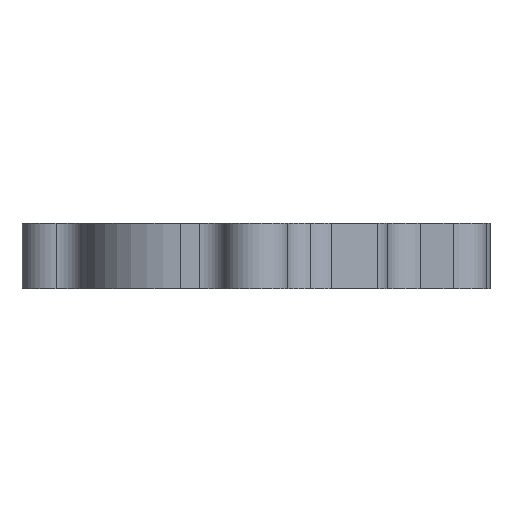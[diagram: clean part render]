
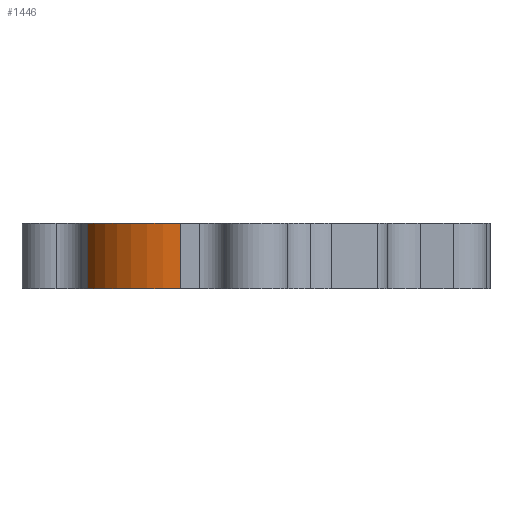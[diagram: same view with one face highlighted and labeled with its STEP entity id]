
A CAD part, left-side view. The second image highlights one B-rep face of the part: STEP entity #1446.
In plain terms, the highlighted cylindrical face has radius 30 mm (diameter 60 mm), a partial arc.
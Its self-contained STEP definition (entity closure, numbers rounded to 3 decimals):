
#504=CARTESIAN_POINT('',(-90.,22.975,-20.0));
#505=VERTEX_POINT('',#504);
#512=CARTESIAN_POINT('',(-70.261,51.166,-20.0));
#513=VERTEX_POINT('',#512);
#514=CARTESIAN_POINT('',(-60.,22.975,-20.0));
#515=DIRECTION('',(0.0,0.0,1.0));
#516=DIRECTION('',(1.0,0.0,0.0));
#517=AXIS2_PLACEMENT_3D('',#514,#515,#516);
#518=CIRCLE('',#517,30.0);
#519=EDGE_CURVE('',#513,#505,#518,.T.);
#826=CARTESIAN_POINT('',(-70.261,51.166,0.0));
#827=VERTEX_POINT('',#826);
#834=CARTESIAN_POINT('',(-90.,22.975,0.0));
#835=VERTEX_POINT('',#834);
#836=CARTESIAN_POINT('',(-60.,22.975,0.0));
#837=DIRECTION('',(0.0,0.0,1.0));
#838=DIRECTION('',(1.0,0.0,0.0));
#839=AXIS2_PLACEMENT_3D('',#836,#837,#838);
#840=CIRCLE('',#839,30.0);
#841=EDGE_CURVE('',#827,#835,#840,.T.);
#1419=CARTESIAN_POINT('',(-90.,22.975,-20.0));
#1420=DIRECTION('',(0.0,0.0,1.0));
#1421=VECTOR('',#1420,1.0);
#1422=LINE('',#1419,#1421);
#1423=EDGE_CURVE('',#505,#835,#1422,.T.);
#1430=CARTESIAN_POINT('',(-60.,22.975,-20.0));
#1431=DIRECTION('',(0.0,0.0,1.0));
#1432=DIRECTION('',(1.0,0.0,0.0));
#1433=AXIS2_PLACEMENT_3D('',#1430,#1431,#1432);
#1434=CYLINDRICAL_SURFACE('',#1433,30.0);
#1435=ORIENTED_EDGE('',*,*,#841,.F.);
#1436=CARTESIAN_POINT('',(-70.261,51.166,-20.0));
#1437=DIRECTION('',(0.0,0.0,1.0));
#1438=VECTOR('',#1437,1.0);
#1439=LINE('',#1436,#1438);
#1440=EDGE_CURVE('',#513,#827,#1439,.T.);
#1441=ORIENTED_EDGE('',*,*,#1440,.F.);
#1442=ORIENTED_EDGE('',*,*,#519,.T.);
#1443=ORIENTED_EDGE('',*,*,#1423,.T.);
#1444=EDGE_LOOP('',(#1435,#1441,#1442,#1443));
#1445=FACE_OUTER_BOUND('',#1444,.T.);
#1446=ADVANCED_FACE('',(#1445),#1434,.T.);
